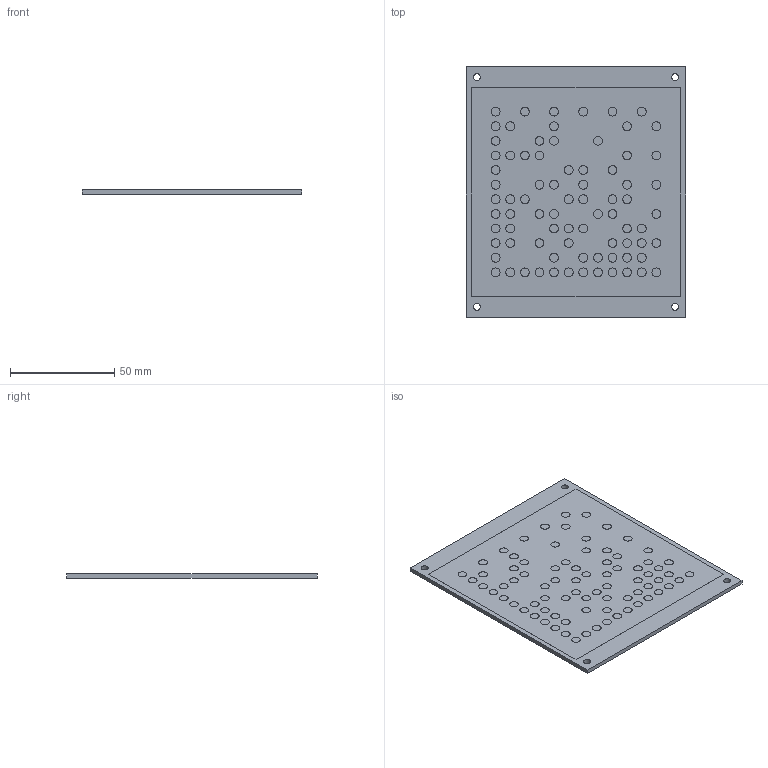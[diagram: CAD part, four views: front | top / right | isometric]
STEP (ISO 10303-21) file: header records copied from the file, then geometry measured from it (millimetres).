
FILE_DESCRIPTION(/* description */ (''),/* implementation_level */ '2;1');
FILE_NAME(/* name */ 'C:\#Vault-WorkDir\Konstruktions-Dokumente\Projekte\VISOR\Katalogzeichnungen\153-13672_ZTM 100-D2-RF-4x3.3_NEU.stp',/* time_stamp */ '2021-02-25T10:18:19+01:00',/* author */ ('SensoPart'),/* organization */ ('SensoPart'),/* preprocessor_version */ 'ST-DEVELOPER v18.1',/* originating_system */ 'Autodesk Inventor 2021',/* authorisation */ '');
FILE_SCHEMA (('AUTOMOTIVE_DESIGN { 1 0 10303 214 3 1 1 }'));
Length unit declared in the file: millimetre
Products named in the file (1): GH-ENG-0034786
Bounding box: 105 x 120 x 2 mm (x, y, z)
Volume: 25020.6 mm3; surface area: 26128.9 mm2
Topology: 1 solids, 1 shells, 173 faces, 273 edges, 182 vertices
Faces by surface type: plane 90, cylinder 83
Full cylindrical faces by diameter (mm): 3.3 x4, 4.2 x79
Entity records: 4229 total; most frequent: DIRECTION 787, CARTESIAN_POINT 629, ORIENTED_EDGE 546, AXIS2_PLACEMENT_3D 340, EDGE_CURVE 273, EDGE_LOOP 261, VERTEX_POINT 182, FACE_OUTER_BOUND 173
